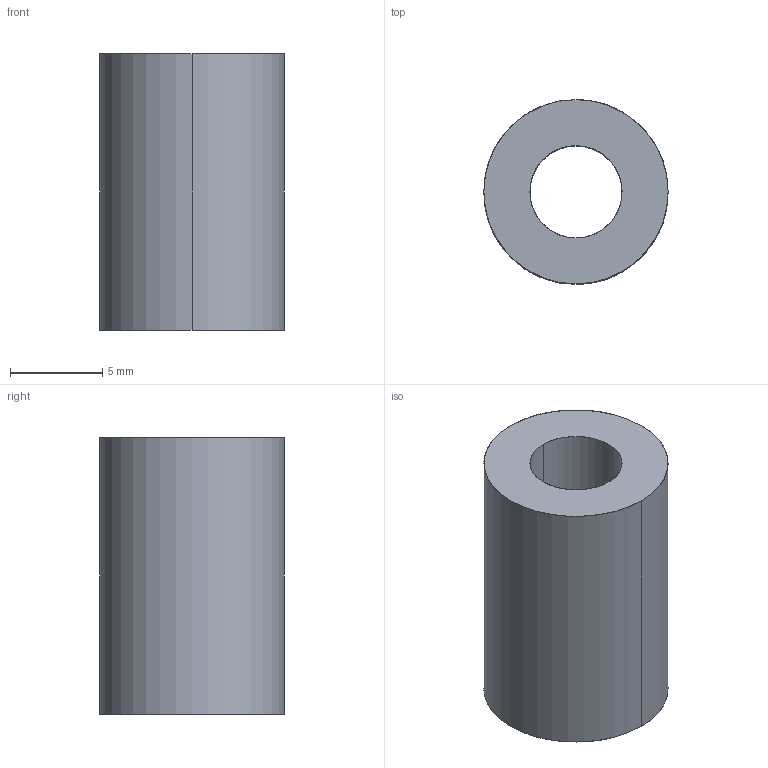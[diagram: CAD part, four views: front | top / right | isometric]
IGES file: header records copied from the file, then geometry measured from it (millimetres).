
Global section: file name: E:\UnigraphicsGraphicData\MISUMI_PRESS-PARTS\IGES\3d_swg10-15_00743_r00.igs; native system: NX V5.0; preprocessor: UGS NX IGES V5.0; author: MISUMI; date: 20110105.163256; units: millimetre
Bounding box: 10 x 10 x 15 mm (x, y, z)
Surface area: 825.1 mm2 (no closed solid volume)
Topology: 0 solids, 0 shells, 6 faces, 48 edges, 48 vertices
Faces by surface type: bspline 6
